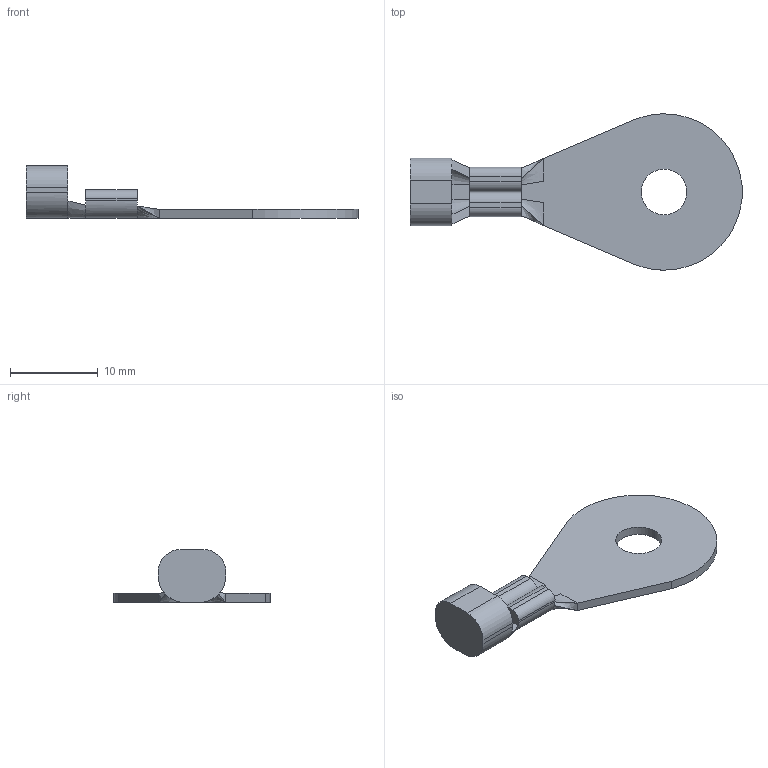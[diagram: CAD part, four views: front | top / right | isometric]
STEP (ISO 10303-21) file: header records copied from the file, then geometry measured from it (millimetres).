
FILE_DESCRIPTION(('CATIA V5 STEP','CAx-IF Rec.Pracs.--- Model Styling and Organization---1.2---2011-12-15'),'2;1');
FILE_NAME('Z:\eds\CATIA\TandC Website Support\WIP\CHARTED ON 101034-D01\LW Models\D00436690_AA_LW-I.D 5.2_2.5_1.stp','2016-10-11T05:32:42+00:00',('%USERNAME%'),('LEAR Corporation'),'CATIA Version 5-6 Release 2014 SP4 HF52','CATIA V5 STEP AP214','none');
FILE_SCHEMA(('AUTOMOTIVE_DESIGN { 1 0 10303 214 1 1 1 1 }'));
Length unit declared in the file: millimetre
Products named in the file (1): D00436690_AA_LW-I.D 5.2_2.5_1
Bounding box: 37.77 x 17.8 x 6 mm (x, y, z)
Volume: 600.9 mm3; surface area: 1012.1 mm2
Topology: 1 solids, 1 shells, 41 faces, 111 edges, 72 vertices
Faces by surface type: plane 18, cylinder 13, bspline 10
Entity records: 1565 total; most frequent: CARTESIAN_POINT 561, ORIENTED_EDGE 222, DIRECTION 158, EDGE_CURVE 111, VERTEX_POINT 72, VECTOR 66, LINE 66, AXIS2_PLACEMENT_3D 63
